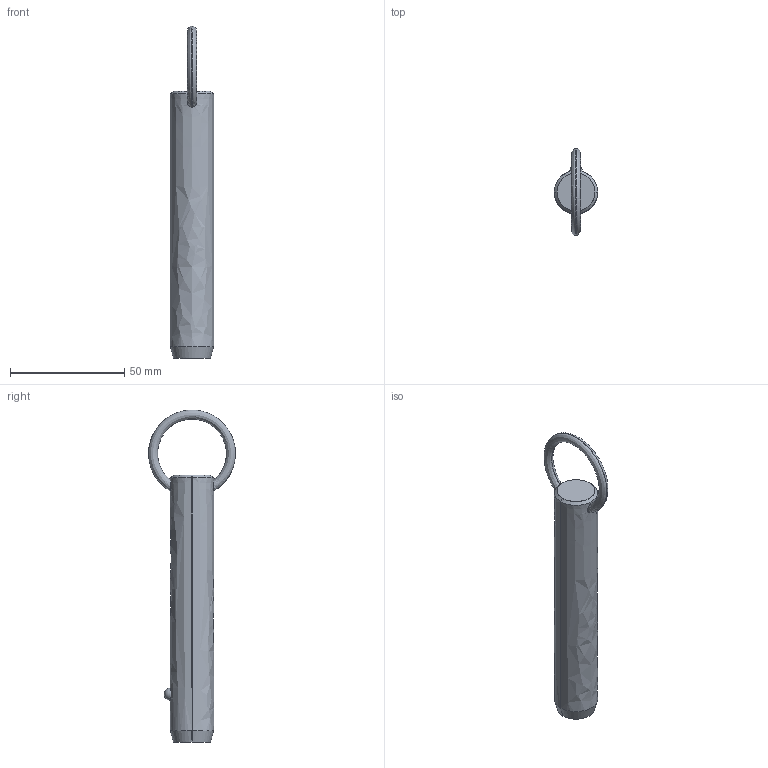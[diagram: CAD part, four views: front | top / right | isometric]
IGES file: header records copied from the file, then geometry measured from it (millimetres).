
Start section: SolidWorks IGES file using analytic representation for surfaces
Global section: file name: C:\Users\liam_\OneDrive\Documents\WORK\Work for WixRoyd\Job Files\J-00019 - Matt Davis CAD Checking\04. CAD Drawings\automotion20190605\P1250.2_v2\P1250.2_v2_20190729_IGES\P1250.075-330.igs; native system: SolidWorks 2017; preprocessor: SolidWorks 2017; author: liam_; date: 190729.235214; units: millimetre
Bounding box: 19 x 38.1 x 145.6 mm (x, y, z)
Surface area: 8516.6 mm2 (no closed solid volume)
Topology: 0 solids, 0 shells, 12 faces, 294 edges, 292 vertices
Faces by surface type: revolution 8, bspline 4
